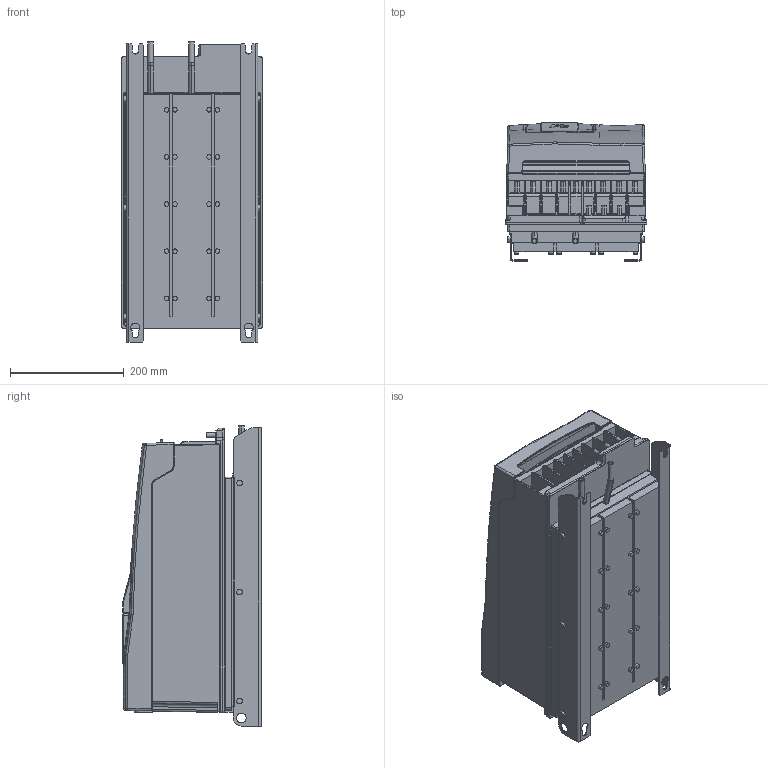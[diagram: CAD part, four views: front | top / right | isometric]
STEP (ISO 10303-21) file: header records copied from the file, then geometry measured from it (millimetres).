
FILE_DESCRIPTION (( 'STEP AP214' ), '1' );
FILE_NAME ('10070595_000.STEP', '2022-02-09T07:03:32', ( '' ), ( '' ), 'SwSTEP 2.0', 'SolidWorks 2019', '' );
FILE_SCHEMA (( 'AUTOMOTIVE_DESIGN' ));
Length unit declared in the file: millimetre
Products named in the file (11): 10059764_000_Blindabdeckung (Kundenmodell); Kundenmodell^10027052_000; Kundenmodell^10044643_000; 10070595_000; 10044643_000_Kundenmodell; 10027052_000_Geh„usebaugruppe F6-6 (Kundenmodell); Kundenmodell^10061793_000; 10049926_000_Leistungsteil F6-6  TW1 (Kundenmodell); Kundenmodell^10059764_000; 10061793_000_Deckelbaugruppe F6-6 (Kundenmodell); Kundenmodell^10049926_000
Assembly tree (10 placements, depth 4):
  10070595_000
    10049926_000_Leistungsteil F6-6  TW1 (Kundenmodell)
      Kundenmodell^10049926_000
    10027052_000_Geh„usebaugruppe F6-6 (Kundenmodell)
      10061793_000_Deckelbaugruppe F6-6 (Kundenmodell)
        Kundenmodell^10061793_000
      Kundenmodell^10027052_000
    10044643_000_Kundenmodell
      10059764_000_Blindabdeckung (Kundenmodell)
        Kundenmodell^10059764_000
      Kundenmodell^10044643_000
Bounding box: 249 x 243.9 x 528.5 mm (x, y, z)
Volume: 22312657.8 mm3; surface area: 1385653.3 mm2
Topology: 12 solids, 21 shells, 3031 faces, 7520 edges, 4495 vertices
Faces by surface type: cylinder 1098, plane 1056, bspline 564, torus 135, sphere 108, cone 70
Entity records: 101807 total; most frequent: CARTESIAN_POINT 34652, ORIENTED_EDGE 14738, DIRECTION 13085, EDGE_CURVE 7369, AXIS2_PLACEMENT_3D 4700, VERTEX_POINT 4493, VECTOR 3685, LINE 3685
